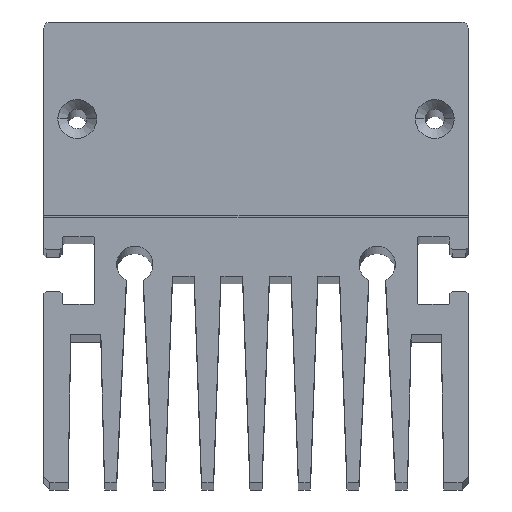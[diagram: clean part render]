
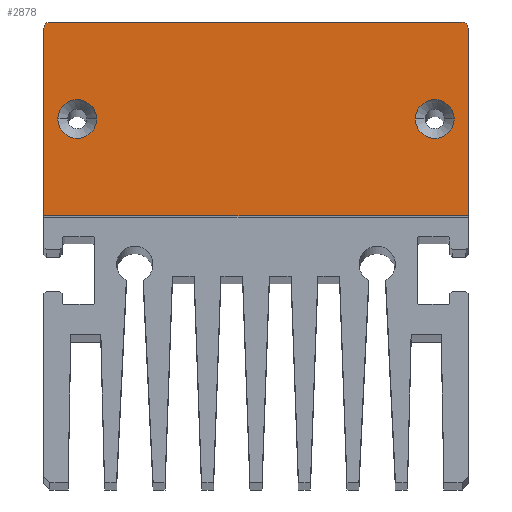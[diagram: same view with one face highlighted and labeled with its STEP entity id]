
A CAD part, top view. The second image highlights one B-rep face of the part: STEP entity #2878.
In plain terms, the highlighted planar face has unit normal (0, 0, 1).
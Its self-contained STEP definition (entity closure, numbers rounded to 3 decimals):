
#628=DIRECTION('',(1.,0.,0.));
#629=VECTOR('',#628,35.001);
#630=CARTESIAN_POINT('',(-17.5,2.8,177.));
#631=LINE('',#630,#629);
#632=CARTESIAN_POINT('',(-17.,18.3,177.));
#633=DIRECTION('',(0.,0.,1.));
#634=DIRECTION('',(0.,1.,0.));
#635=AXIS2_PLACEMENT_3D('',#632,#633,#634);
#637=CARTESIAN_POINT('',(17.497,18.3,177.));
#638=CARTESIAN_POINT('',(17.497,18.395,177.));
#639=CARTESIAN_POINT('',(17.449,18.558,177.));
#640=CARTESIAN_POINT('',(17.253,18.754,177.));
#641=CARTESIAN_POINT('',(17.092,18.8,177.));
#642=CARTESIAN_POINT('',(16.997,18.8,177.));
#644=CARTESIAN_POINT('',(14.75,10.8,177.));
#645=DIRECTION('',(0.,0.,-1.));
#646=DIRECTION('',(-1.,0.,0.));
#647=AXIS2_PLACEMENT_3D('',#644,#645,#646);
#649=CARTESIAN_POINT('',(14.75,10.8,177.));
#650=DIRECTION('',(0.,0.,-1.));
#651=DIRECTION('',(1.,0.,0.));
#652=AXIS2_PLACEMENT_3D('',#649,#650,#651);
#654=CARTESIAN_POINT('',(-14.75,10.8,177.));
#655=DIRECTION('',(0.,0.,-1.));
#656=DIRECTION('',(-1.,0.,0.));
#657=AXIS2_PLACEMENT_3D('',#654,#655,#656);
#659=CARTESIAN_POINT('',(-14.75,10.8,177.));
#660=DIRECTION('',(0.,0.,-1.));
#661=DIRECTION('',(1.,0.,0.));
#662=AXIS2_PLACEMENT_3D('',#659,#660,#661);
#704=DIRECTION('',(0.,-1.,0.));
#705=VECTOR('',#704,15.5);
#706=CARTESIAN_POINT('',(-17.5,18.3,177.));
#707=LINE('',#706,#705);
#1116=DIRECTION('',(0.,1.,0.));
#1117=VECTOR('',#1116,15.5);
#1118=CARTESIAN_POINT('',(17.501,2.8,177.));
#1119=LINE('',#1118,#1117);
#1664=DIRECTION('',(-1.,0.,0.));
#1665=VECTOR('',#1664,33.997);
#1666=CARTESIAN_POINT('',(16.997,18.8,177.));
#1667=LINE('',#1666,#1665);
#2262=CARTESIAN_POINT('',(-17.,18.8,177.));
#2263=CARTESIAN_POINT('',(-17.5,18.3,177.));
#2264=VERTEX_POINT('',#2262);
#2265=VERTEX_POINT('',#2263);
#2266=VERTEX_POINT('',#637);
#2267=VERTEX_POINT('',#642);
#2272=CARTESIAN_POINT('',(-17.5,2.8,177.));
#2273=CARTESIAN_POINT('',(17.501,2.8,177.));
#2274=VERTEX_POINT('',#2272);
#2275=VERTEX_POINT('',#2273);
#2414=CARTESIAN_POINT('',(13.15,10.8,177.));
#2415=CARTESIAN_POINT('',(16.35,10.8,177.));
#2416=VERTEX_POINT('',#2414);
#2417=VERTEX_POINT('',#2415);
#2422=CARTESIAN_POINT('',(-16.35,10.8,177.));
#2423=CARTESIAN_POINT('',(-13.15,10.8,177.));
#2424=VERTEX_POINT('',#2422);
#2425=VERTEX_POINT('',#2423);
#2848=CARTESIAN_POINT('',(0.,0.,177.));
#2849=DIRECTION('',(0.,0.,1.));
#2850=DIRECTION('',(1.,0.,0.));
#2851=AXIS2_PLACEMENT_3D('',#2848,#2849,#2850);
#2852=PLANE('',#2851);
#2854=ORIENTED_EDGE('',*,*,#2853,.F.);
#2856=ORIENTED_EDGE('',*,*,#2855,.F.);
#2858=ORIENTED_EDGE('',*,*,#2857,.F.);
#2860=ORIENTED_EDGE('',*,*,#2859,.F.);
#2862=ORIENTED_EDGE('',*,*,#2861,.F.);
#2864=ORIENTED_EDGE('',*,*,#2863,.F.);
#2865=EDGE_LOOP('',(#2854,#2856,#2858,#2860,#2862,#2864));
#2866=FACE_OUTER_BOUND('',#2865,.F.);
#2868=ORIENTED_EDGE('',*,*,#2867,.F.);
#2870=ORIENTED_EDGE('',*,*,#2869,.F.);
#2871=EDGE_LOOP('',(#2868,#2870));
#2872=FACE_BOUND('',#2871,.F.);
#2873=ORIENTED_EDGE('',*,*,#2690,.F.);
#2875=ORIENTED_EDGE('',*,*,#2874,.F.);
#2876=EDGE_LOOP('',(#2873,#2875));
#2877=FACE_BOUND('',#2876,.F.);
#636=CIRCLE('',#635,0.5);
#643=B_SPLINE_CURVE_WITH_KNOTS('',3,(#637,#638,#639,#640,#641,#642),
.UNSPECIFIED.,.F.,.F.,(4,1,1,4),(0.,0.333,0.667,1.),
.UNSPECIFIED.);
#648=CIRCLE('',#647,1.6);
#653=CIRCLE('',#652,1.6);
#658=CIRCLE('',#657,1.6);
#663=CIRCLE('',#662,1.6);
#2690=EDGE_CURVE('',#2424,#2425,#658,.T.);
#2853=EDGE_CURVE('',#2274,#2275,#631,.T.);
#2855=EDGE_CURVE('',#2265,#2274,#707,.T.);
#2857=EDGE_CURVE('',#2264,#2265,#636,.T.);
#2859=EDGE_CURVE('',#2267,#2264,#1667,.T.);
#2861=EDGE_CURVE('',#2266,#2267,#643,.T.);
#2863=EDGE_CURVE('',#2275,#2266,#1119,.T.);
#2867=EDGE_CURVE('',#2416,#2417,#648,.T.);
#2869=EDGE_CURVE('',#2417,#2416,#653,.T.);
#2874=EDGE_CURVE('',#2425,#2424,#663,.T.);
#2878=ADVANCED_FACE('',(#2866,#2872,#2877),#2852,.T.);
